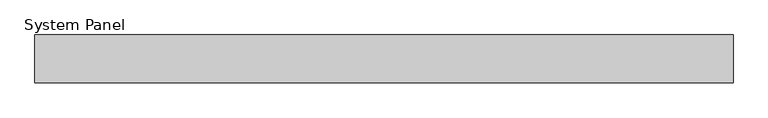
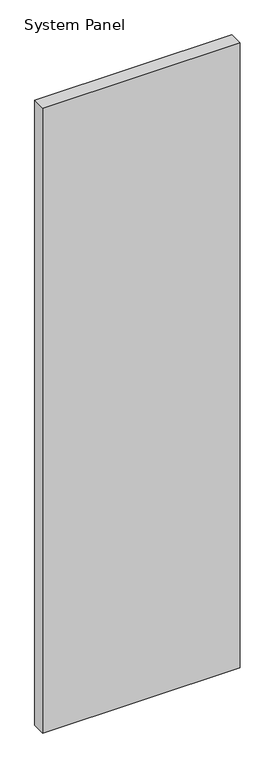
"""IFC4 building model written with IfcOpenShell, lengths in millimetres: plate geometry, System Panel : MetecnoPanel_75mm_Plain_Surfmist."""

from ifc_helpers import new_model, si_unit, origin, origin_with_axes, place, context, project, spatial, polyline, outline, extrude, source, transform, mapped, element, save


def system_panel_b51e4787(model_context):
    return source(origin(), model_context, "Body", "SweptSolid", [
        extrude(outline(polyline([(550.0, -75.0), (-550.0, -75.0), (-550.0, 0.0), (550.0, 0.0), (550.0, -75.0)])), origin_with_axes(), (0.0, 0.0, 1.0), 3679.9704237),
    ])


if __name__ == "__main__":
    model = new_model("IFC4")
    model_context = context("Model", 3, world=origin())
    ifc_project = project(units=[si_unit("LENGTHUNIT", "METRE", prefix="MILLI")], contexts=[model_context])
    site = spatial("IfcSite", under=ifc_project)
    building = spatial("IfcBuilding", under=site)
    placement = place(None, origin())
    system_panel_shape = system_panel_b51e4787(model_context)
    element("IfcPlate", 1, ObjectType="System Panel : MetecnoPanel_75mm_Plain_Surfmist", at=placement, inside=building, context=model_context, shape_type="MappedRepresentation", body=[
        mapped(system_panel_shape, transform((0.0, 0.0, 0.0), x_axis=(1.0, 0.0, 0.0), y_axis=(0.0, 1.0, 0.0), z_axis=(0.0, 0.0, 1.0))),
    ])
    save(model, "model.ifc")
